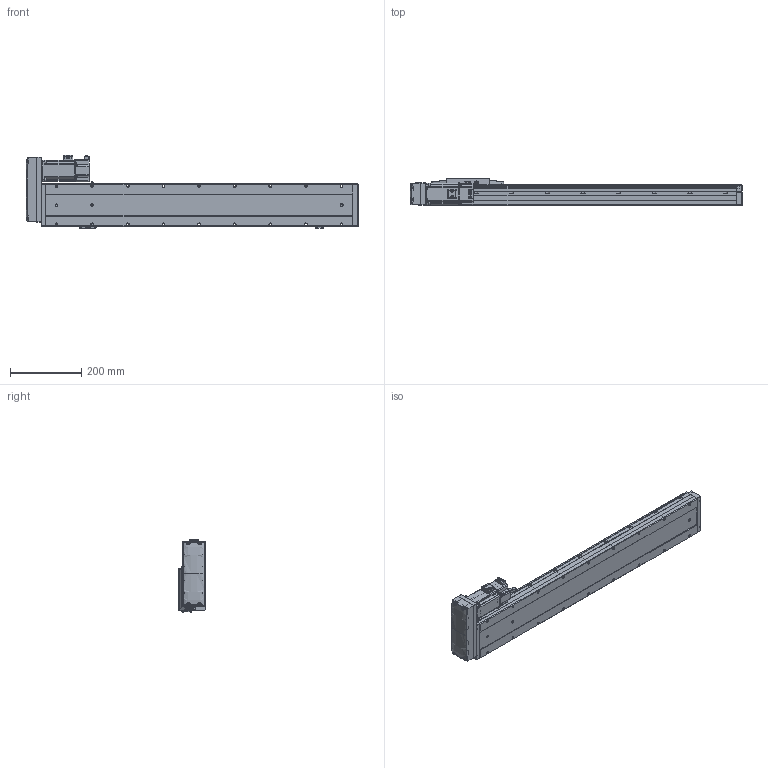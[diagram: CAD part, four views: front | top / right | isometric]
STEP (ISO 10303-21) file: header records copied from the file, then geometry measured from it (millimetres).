
FILE_DESCRIPTION (( 'STEP AP214' ), '1' );
FILE_NAME ('CTH12-L10-S650-BL-C40（简）.STEP', '2023-02-06T04:56:41', ( '' ), ( '' ), 'SwSTEP 2.0', 'SolidWorks 2018', '' );
FILE_SCHEMA (( 'AUTOMOTIVE_DESIGN' ));
Length unit declared in the file: millimetre
Products named in the file (24): 湮賑怢  裔赽-1(CTH12)賑怢; CTH12賑怢郪磁; CTH12-L10-S650-BL-C40（简）; 内六角圆柱头螺钉M3-2; CTH12侧装连接板（标准）简; CTH12; CTH12賑怢ㄗ潠ㄘ; PM-Y45; 400W萇儂; 嫖萇羲壽郪磁1; CTH12_body_3; hex nuts, style 1-grades ab gb_GB_FASTENER_NUT_SNAB1 M3-N; CTH400W假蚾啣; CTH12-BL_body_4; CTH嫖萇羲壽假蚾啣; CTH12耜蚾裔; M5蹟隊; 蚐郲; 内六角圆柱头螺钉M3; 嫖萇羲壽郪磁2; CTH12覜茼え; CTH400W垫板（3个厚）; CTH12底座-L861简（650行程）; 内六角圆柱头螺钉M3-1
Assembly tree (44 placements, depth 4):
  CTH12-L10-S650-BL-C40（简）
    CTH12底座-L861简（650行程）
    蚐郲  x2
    CTH12_body_3
    CTH12-BL_body_4
    CTH12侧装连接板（标准）简
    CTH12耜蚾裔
    CTH12賑怢郪磁
      CTH12
        湮賑怢  裔赽-1(CTH12)賑怢
        CTH12賑怢ㄗ潠ㄘ
    CTH12覜茼え
    CTH400W垫板（3个厚）
    400W萇儂
    内六角圆柱头螺钉M3  x6
    M5蹟隊  x4
    嫖萇羲壽郪磁1
      CTH嫖萇羲壽假蚾啣
      PM-Y45
      内六角圆柱头螺钉M3-2  x2
      内六角圆柱头螺钉M3-1  x2
      hex nuts, style 1-grades ab gb_GB_FASTENER_NUT_SNAB1 M3-N  x2
    嫖萇羲壽郪磁2  x2
      CTH嫖萇羲壽假蚾啣
      PM-Y45
      内六角圆柱头螺钉M3-1
      内六角圆柱头螺钉M3-2
      hex nuts, style 1-grades ab gb_GB_FASTENER_NUT_SNAB1 M3-N
    CTH400W假蚾啣
Bounding box: 931.5 x 76 x 205.26 mm (x, y, z)
Volume: 6324111.3 mm3; surface area: 673862.9 mm2
Topology: 47 solids, 48 shells, 3227 faces, 8052 edges, 5047 vertices
Faces by surface type: plane 1562, cylinder 926, cone 427, bspline 184, torus 124, sphere 4
Entity records: 106226 total; most frequent: CARTESIAN_POINT 39538, ORIENTED_EDGE 13206, DIRECTION 12485, EDGE_CURVE 6603, AXIS2_PLACEMENT_3D 4376, VERTEX_POINT 4151, VECTOR 3733, LINE 3733
